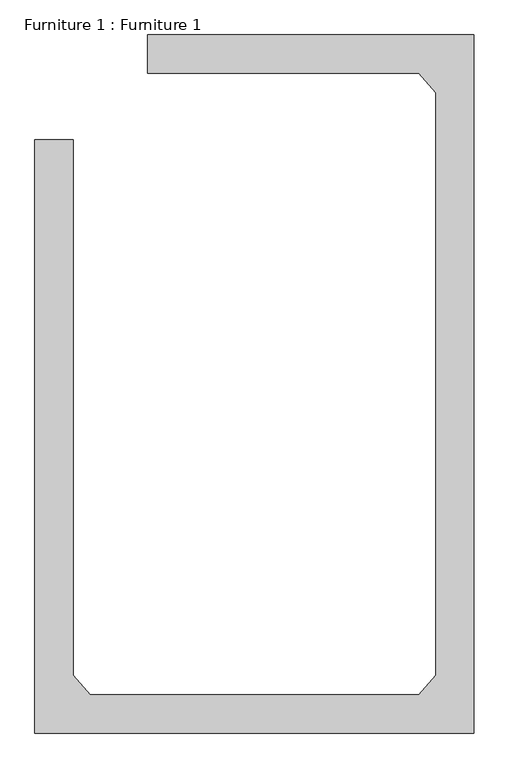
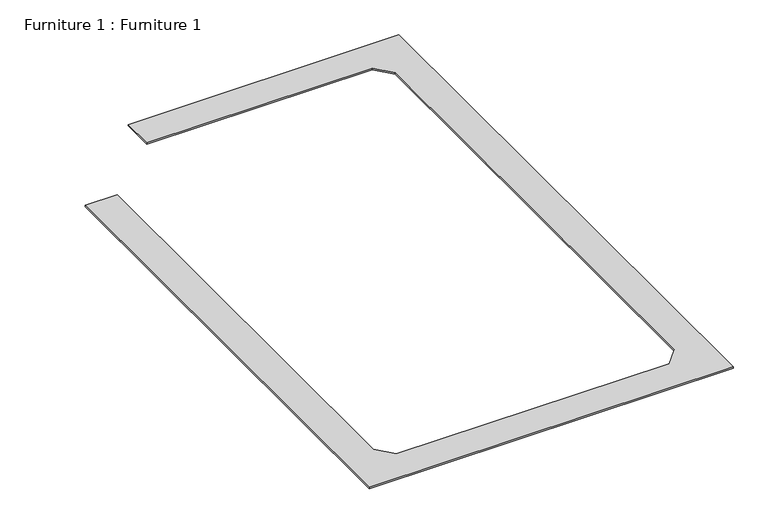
"""IFC4 building model written with IfcOpenShell, lengths in millimetres: furniture geometry, Furniture 1 : Furniture 1."""

from ifc_helpers import new_model, si_unit, frame, origin, place, context, project, spatial, polyline, outline, extrude, source, transform, mapped, element, save


def furniture_1_furniture_1_e9a6e4ac(model_context):
    return source(origin(), model_context, "Body", "SweptSolid", [
        extrude(outline(polyline([(9902.7672395, -16954.7846466), (9902.7672395, -16254.7846466), (15843.0482736, -16254.7846466), (15843.0482736, -28954.7846466), (7852.7672395, -28954.7846466), (7852.7672395, -18164.2219449), (8552.7672395, -18164.2219449), (8552.7672395, -27904.4748282), (8858.6462191, -28254.7846466), (14846.8882599, -28254.7846466), (15152.7672395, -27904.4748282), (15152.7672395, -17305.094465), (14846.8882599, -16954.7846466), (9902.7672395, -16954.7846466)])), frame((0.0, 0.0, 1700.0), z_axis=(0.0, 0.0, 1.0), x_axis=(1.0, 0.0, 0.0)), (0.0, 0.0, 1.0), 30.0),
    ])


if __name__ == "__main__":
    model = new_model("IFC4")
    model_context = context("Model", 3, world=origin())
    ifc_project = project(units=[si_unit("LENGTHUNIT", "METRE", prefix="MILLI")], contexts=[model_context])
    site = spatial("IfcSite", under=ifc_project)
    building = spatial("IfcBuilding", under=site)
    placement = place(None, origin())
    furniture_1_furniture_1_shape = furniture_1_furniture_1_e9a6e4ac(model_context)
    element("IfcFurniture", 1, ObjectType="Furniture 1 : Furniture 1", at=placement, inside=building, context=model_context, shape_type="MappedRepresentation", body=[
        mapped(furniture_1_furniture_1_shape, transform((0.0, 0.0, 0.0), x_axis=(1.0, 0.0, 0.0), y_axis=(0.0, 1.0, 0.0), z_axis=(0.0, 0.0, 1.0))),
    ])
    save(model, "model.ifc")
